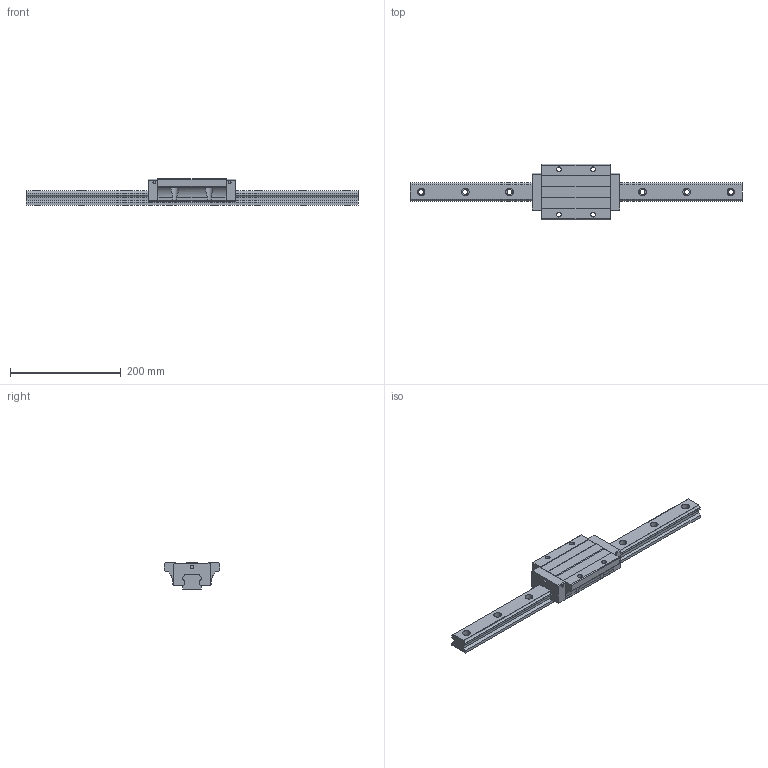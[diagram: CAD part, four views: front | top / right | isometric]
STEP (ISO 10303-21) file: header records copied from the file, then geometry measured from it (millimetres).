
FILE_DESCRIPTION (( 'STEP AP203' ), '1' );
FILE_NAME ('TRH35FE-SU.STEP', '2024-06-26T05:20:58', ( '' ), ( '' ), 'SwSTEP 2.0', 'SolidWorks 2022', '' );
FILE_SCHEMA (( 'CONFIG_CONTROL_DESIGN' ));
Length unit declared in the file: millimetre
Products named in the file (1): TRH35FE-SU
Bounding box: 600 x 100 x 48 mm (x, y, z)
Volume: 845350.7 mm3; surface area: 137725.6 mm2
Topology: 2 solids, 2 shells, 212 faces, 580 edges, 386 vertices
Faces by surface type: cylinder 112, plane 100
Entity records: 7469 total; most frequent: CARTESIAN_POINT 1821, DIRECTION 1174, ORIENTED_EDGE 1160, EDGE_CURVE 580, AXIS2_PLACEMENT_3D 409, VERTEX_POINT 386, VECTOR 356, LINE 356
